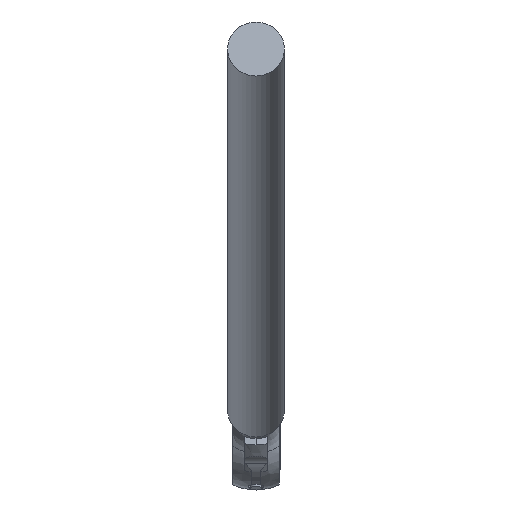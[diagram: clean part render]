
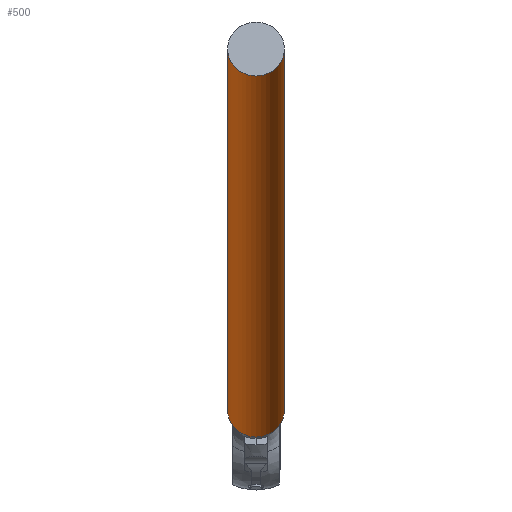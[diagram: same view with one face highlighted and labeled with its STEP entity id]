
A CAD part, left-side view. The second image highlights one B-rep face of the part: STEP entity #500.
In plain terms, the highlighted cylindrical face has radius 30 mm (diameter 60 mm), a full revolution.
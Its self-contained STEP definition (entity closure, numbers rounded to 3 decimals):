
#28 = ORIENTED_EDGE ( 'NONE', *, *, #1761, .T. ) ;
#54 = EDGE_LOOP ( 'NONE', ( #28 ) ) ;
#69 = ORIENTED_EDGE ( 'NONE', *, *, #113, .F. ) ;
#113 = EDGE_CURVE ( 'NONE', #750, #750, #1647, .T. ) ;
#401 = VERTEX_POINT ( 'NONE', #530 ) ;
#500 = ADVANCED_FACE ( 'NONE', ( #1847, #656 ), #1334, .T. ) ;
#530 = CARTESIAN_POINT ( 'NONE',  ( 388.751, -231.5, 659.426 ) ) ;
#622 = DIRECTION ( 'NONE',  ( 0.309, 0., 0.951 ) ) ;
#648 = AXIS2_PLACEMENT_3D ( 'NONE', #2239, #847, #1170 ) ;
#656 = FACE_OUTER_BOUND ( 'NONE', #1707, .T. ) ;
#691 = DIRECTION ( 'NONE',  ( 0.309, 0., 0.951 ) ) ;
#714 = DIRECTION ( 'NONE',  ( -0.951, 0., 0.309 ) ) ;
#750 = VERTEX_POINT ( 'NONE', #1591 ) ;
#847 = DIRECTION ( 'NONE',  ( -0.951, 0., 0.309 ) ) ;
#1038 = CARTESIAN_POINT ( 'NONE',  ( -793.458, -231.5, 1012.005 ) ) ;
#1170 = DIRECTION ( 'NONE',  ( 0.309, 0., 0.951 ) ) ;
#1334 = CYLINDRICAL_SURFACE ( 'NONE', #1358, 30. ) ;
#1358 = AXIS2_PLACEMENT_3D ( 'NONE', #1689, #1511, #622 ) ;
#1511 = DIRECTION ( 'NONE',  ( -0.951, 0., 0.309 ) ) ;
#1591 = CARTESIAN_POINT ( 'NONE',  ( -784.187, -231.5, 1040.536 ) ) ;
#1619 = CIRCLE ( 'NONE', #648, 30. ) ;
#1647 = CIRCLE ( 'NONE', #1750, 30. ) ;
#1689 = CARTESIAN_POINT ( 'NONE',  ( -781.38, -231.5, 1008.08 ) ) ;
#1707 = EDGE_LOOP ( 'NONE', ( #69 ) ) ;
#1750 = AXIS2_PLACEMENT_3D ( 'NONE', #1038, #714, #691 ) ;
#1761 = EDGE_CURVE ( 'NONE', #401, #401, #1619, .T. ) ;
#1847 = FACE_OUTER_BOUND ( 'NONE', #54, .T. ) ;
#2239 = CARTESIAN_POINT ( 'NONE',  ( 379.48, -231.5, 630.894 ) ) ;
